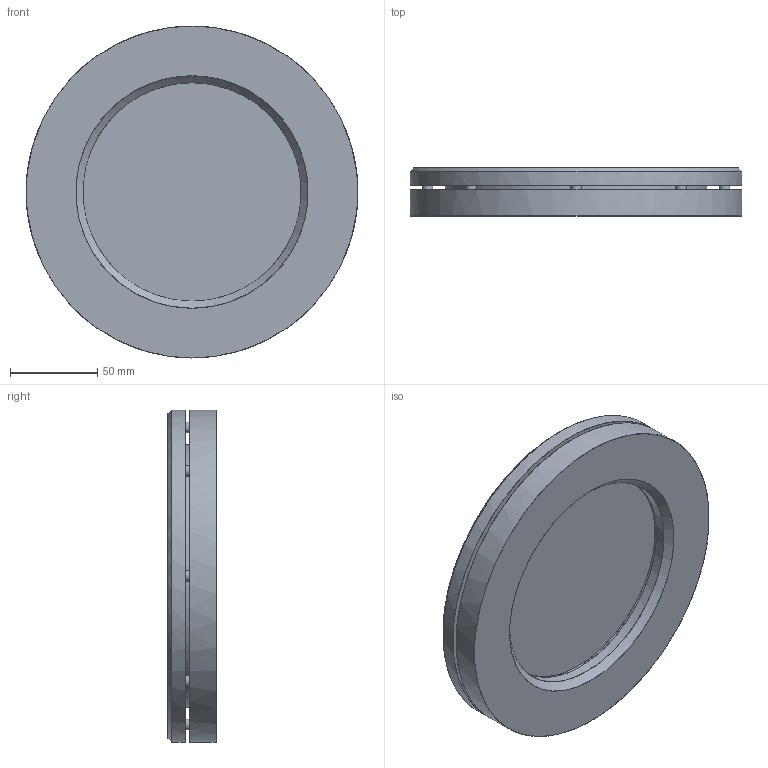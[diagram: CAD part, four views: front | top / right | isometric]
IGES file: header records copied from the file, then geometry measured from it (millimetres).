
Start section: C
Global section: file name: Armatur 28120 drucklos DN 100.igs; native system: By Siemens PLM Incorporated; preprocessor: XPlus GENERIC/IGES 18.0.17; author: Author; organization: Title; date: 20160118.154718; units: millimetre
Bounding box: 189.72 x 27.5 x 190 mm (x, y, z)
Surface area: 160641.6 mm2 (no closed solid volume)
Topology: 0 solids, 0 shells, 244 faces, 1260 edges, 1244 vertices
Faces by surface type: bspline 244
